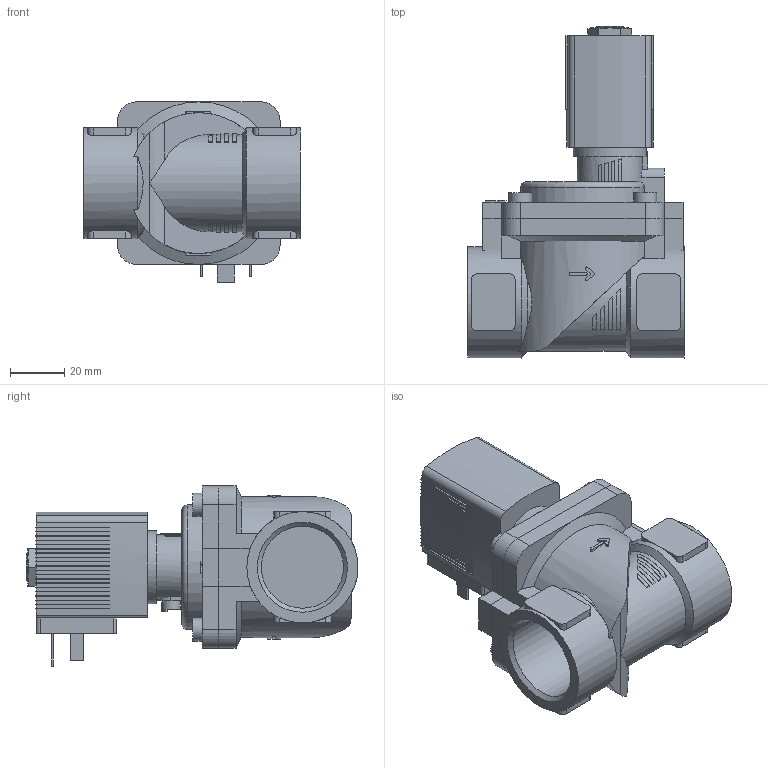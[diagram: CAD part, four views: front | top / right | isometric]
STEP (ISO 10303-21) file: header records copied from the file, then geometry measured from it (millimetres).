
FILE_DESCRIPTION(/* description */ ('STEP AP214'),/* implementation_level */ '2;1');
FILE_NAME(/* name */ '6281-316343-2_2-Way_Solenoid_Valve__Servo-assisted__General_Purpose',/* time_stamp */ '2024-05-20T13:08:56+02:00',/* author */ ('License CC BY-ND 4.0'),/* organization */ ('CADENAS'),/* preprocessor_version */ 'ST-DEVELOPER v19.3',/* originating_system */ 'PARTsolutions',/* authorisation */ ' ');
FILE_SCHEMA (('AUTOMOTIVE_DESIGN {1 0 10303 214 3 1 1}'));
Length unit declared in the file: millimetre
Products named in the file (4): 6281-316343-2/2-Way Solenoid Valve, Servo-assisted, General Purpose; 5281ev201MS2/2-Wege-Magnetventil mit Servomembran-Deckel   ; 6213-20G1MS-Gehaeuse-; AC10ex-5OO-Plan-Coil
Assembly tree (3 placements, depth 2):
  6281-316343-2/2-Way Solenoid Valve, Servo-assisted, General Purpose
    5281ev201MS2/2-Wege-Magnetventil mit Servomembran-Deckel   
    6213-20G1MS-Gehaeuse-
    AC10ex-5OO-Plan-Coil
Bounding box: 80 x 122.5 x 66.5 mm (x, y, z)
Volume: 213027.2 mm3; surface area: 47151.1 mm2
Topology: 3 solids, 3 shells, 548 faces, 1513 edges, 1003 vertices
Faces by surface type: plane 442, cylinder 90, cone 15, torus 1
Full cylindrical faces by diameter (mm): 2.013 x1, 6.8 x1, 8.5 x4, 9.74 x1, 27 x1, 30.291 x2, 41 x2
Entity records: 20133 total; most frequent: CARTESIAN_POINT 3302, ORIENTED_EDGE 2976, DIRECTION 2852, EDGE_CURVE 1488, LINE 1092, VECTOR 1092, VERTEX_POINT 994, AXIS2_PLACEMENT_3D 880
